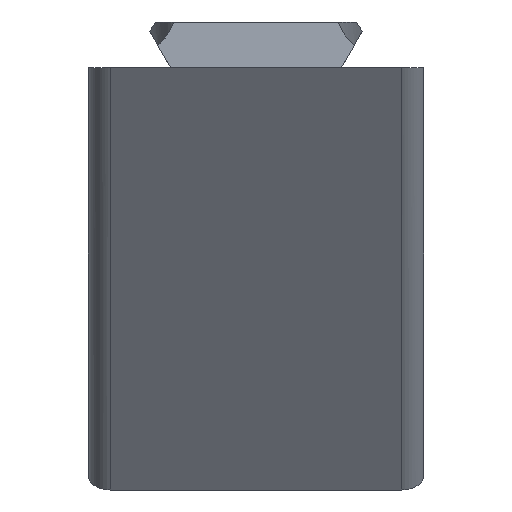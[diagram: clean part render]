
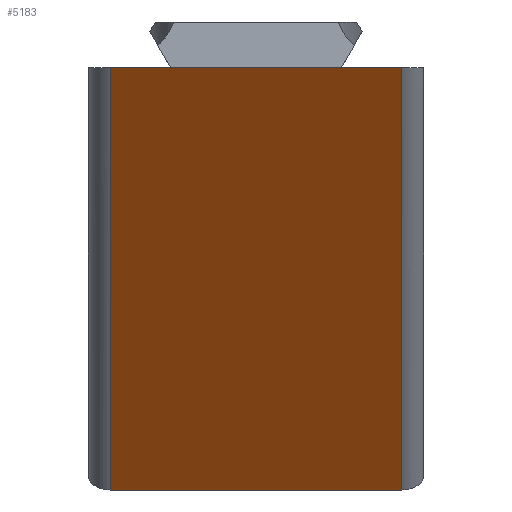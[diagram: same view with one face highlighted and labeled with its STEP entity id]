
A CAD part, left-side view. The second image highlights one B-rep face of the part: STEP entity #5183.
In plain terms, the highlighted planar face has unit normal (-0.788, 0, -0.616).
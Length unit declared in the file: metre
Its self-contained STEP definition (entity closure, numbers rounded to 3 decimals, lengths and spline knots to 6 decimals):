
#839=ORIENTED_EDGE('',*,*,#2189,.T.);
#840=ORIENTED_EDGE('',*,*,#2407,.T.);
#841=ORIENTED_EDGE('',*,*,#2141,.F.);
#842=ORIENTED_EDGE('',*,*,#2408,.T.);
#843=ORIENTED_EDGE('',*,*,#2205,.T.);
#844=ORIENTED_EDGE('',*,*,#2402,.T.);
#2141=EDGE_CURVE('',#2941,#2942,#3474,.T.);
#2189=EDGE_CURVE('',#2990,#2989,#3498,.T.);
#2205=EDGE_CURVE('',#3006,#3005,#3508,.T.);
#2402=EDGE_CURVE('',#3005,#2990,#3588,.T.);
#2407=EDGE_CURVE('',#2989,#2942,#3589,.T.);
#2408=EDGE_CURVE('',#2941,#3006,#3590,.F.);
#2941=VERTEX_POINT('',#6849);
#2942=VERTEX_POINT('',#6851);
#2989=VERTEX_POINT('',#6949);
#2990=VERTEX_POINT('',#6951);
#3005=VERTEX_POINT('',#6981);
#3006=VERTEX_POINT('',#6983);
#3474=LINE('',#6850,#3924);
#3498=LINE('',#6950,#3948);
#3508=LINE('',#6982,#3958);
#3588=LINE('',#7539,#4038);
#3589=LINE('',#7550,#4039);
#3590=LINE('',#7551,#4040);
#3924=VECTOR('',#5790,1.);
#3948=VECTOR('',#5870,1.);
#3958=VECTOR('',#5892,1.);
#4038=VECTOR('',#6064,1.);
#4039=VECTOR('',#6081,1.);
#4040=VECTOR('',#6082,1.);
#4413=EDGE_LOOP('',(#839,#840,#841,#842,#843,#844));
#4747=FACE_BOUND('',#4413,.T.);
#5054=PLANE('',#5562);
#5183=ADVANCED_FACE('',(#4747),#5054,.F.);
#5562=AXIS2_PLACEMENT_3D('',#7549,#6079,#6080);
#5790=DIRECTION('',(0.,1.,0.));
#5870=DIRECTION('',(0.,1.,0.));
#5892=DIRECTION('',(0.,1.,0.));
#6064=DIRECTION('',(0.,1.,0.));
#6079=DIRECTION('',(0.788,0.,0.616));
#6080=DIRECTION('',(0.616,0.,-0.788));
#6081=DIRECTION('',(0.616,0.,-0.788));
#6082=DIRECTION('',(0.616,0.,-0.788));
#6849=CARTESIAN_POINT('',(0.029534,-0.013,-0.037801));
#6850=CARTESIAN_POINT('',(0.029534,-0.015,-0.037801));
#6851=CARTESIAN_POINT('',(0.029534,0.013,-0.037801));
#6949=CARTESIAN_POINT('',(0.,0.013,0.));
#6950=CARTESIAN_POINT('',(0.,-0.015,0.));
#6951=CARTESIAN_POINT('',(0.,0.007695,0.));
#6981=CARTESIAN_POINT('',(0.,-0.007695,0.));
#6982=CARTESIAN_POINT('',(0.,-0.015,0.));
#6983=CARTESIAN_POINT('',(0.,-0.013,0.));
#7539=CARTESIAN_POINT('',(0.,0.,0.));
#7549=CARTESIAN_POINT('',(0.014767,-0.015,-0.018901));
#7550=CARTESIAN_POINT('',(0.014767,0.013,-0.018901));
#7551=CARTESIAN_POINT('',(0.,-0.013,0.));
